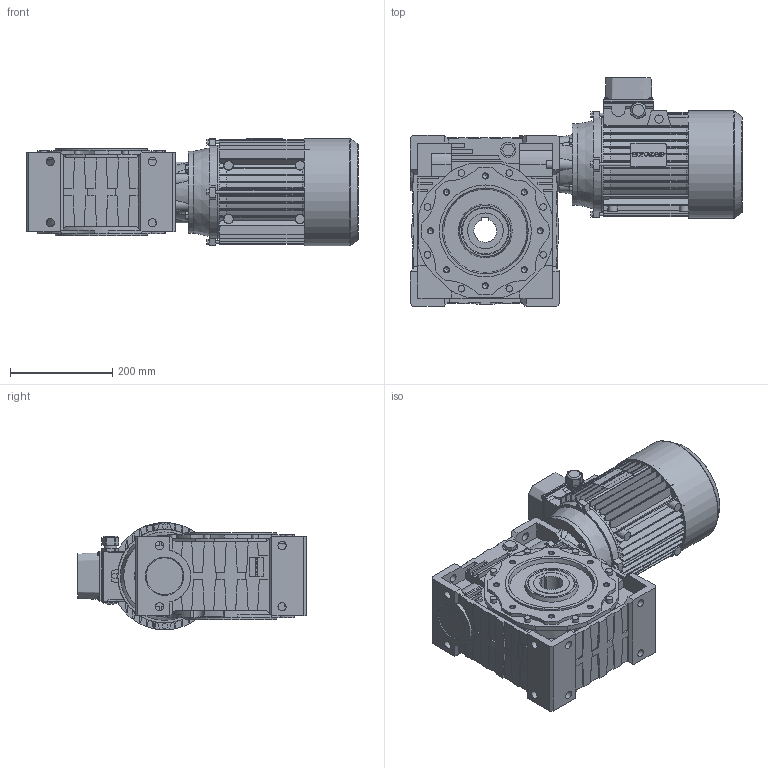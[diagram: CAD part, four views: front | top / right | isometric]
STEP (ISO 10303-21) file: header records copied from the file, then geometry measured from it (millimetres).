
FILE_DESCRIPTION(/* description */ ('STEP AP203'),/* implementation_level */ '2;1');
FILE_NAME(/* name */ 'NMRV13013024511100300TP112112MR41_-----IC411NONO------STD',/* time_stamp */ '2025-12-05T05:03:29+01:00',/* author */ ('License CC BY-ND 4.0'),/* organization */ ('CADENAS'),/* preprocessor_version */ 'ST-DEVELOPER v20',/* originating_system */ 'PARTsolutions',/* authorisation */ ' ');
FILE_SCHEMA (('CONFIG_CONTROL_DESIGN'));
Length unit declared in the file: millimetre
Products named in the file (12): NMRV13013024511100300TP112112MR41(-----IC411NONO------STD); Gear unit 130; 130-45 (170)alc-n; VB 130-28 (28); 130-100-112 B14; FLANGIA_TP112B14-; CARCASSA_TP112MR4112IC411B1428X60NONO--; COPRIMORSETTIERA_TP112A002; PRESSACAVO_3; COP_TP_112MR4_IC411_NO_-_-_-_-_STD; TIPPO_25; ALBERO_TP11228X60NO
Assembly tree (11 placements, depth 2):
  NMRV13013024511100300TP112112MR41(-----IC411NONO------STD)
    Gear unit 130
    130-45 (170)alc-n
    VB 130-28 (28)
    130-100-112 B14
    FLANGIA_TP112B14-
    CARCASSA_TP112MR4112IC411B1428X60NONO--
    COPRIMORSETTIERA_TP112A002
    PRESSACAVO_3
    COP_TP_112MR4_IC411_NO_-_-_-_-_STD
    TIPPO_25
    ALBERO_TP11228X60NO
Bounding box: 650 x 447.6 x 211.06 mm (x, y, z)
Volume: 23875979.2 mm3; surface area: 1418887.8 mm2
Topology: 11 solids, 11 shells, 2556 faces, 6975 edges, 4593 vertices
Faces by surface type: plane 1488, cylinder 910, cone 147, torus 5, sphere 5, bspline 1
Full cylindrical faces by diameter (mm): 1.8 x1, 2.02 x1, 3.675 x3, 5.5 x2, 6 x4, 7.45 x4, 8 x8, 8.376 x1, 10.106 x16, 10.5 x1, 13 x14, 16 x14, 20 x4, 25 x3, 26 x1, 28 x1, 30 x6, 49 x1, 50 x2, 61 x1, 68 x1, 69 x1, 70 x2, 80 x1, 99 x1, 110 x2, 160 x1, 178 x2, 180 x2, 183 x2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
Entity records: 80535 total; most frequent: CARTESIAN_POINT 14829, DIRECTION 13891, ORIENTED_EDGE 13498, EDGE_CURVE 6749, AXIS2_PLACEMENT_3D 4818, VERTEX_POINT 4550, LINE 4255, VECTOR 4255
